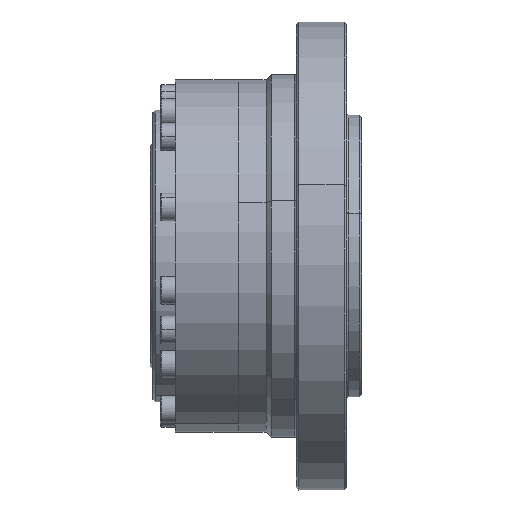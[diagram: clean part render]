
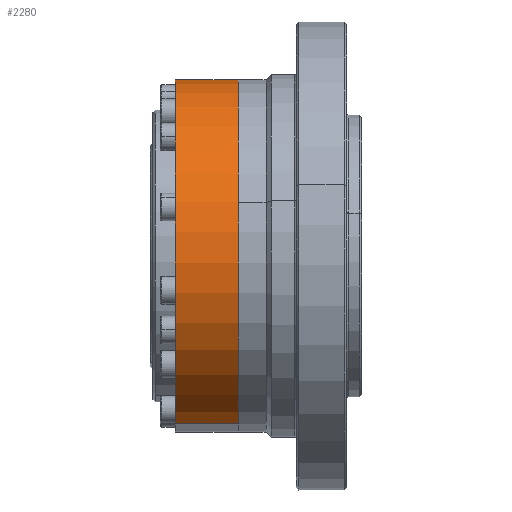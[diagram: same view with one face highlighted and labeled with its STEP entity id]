
A CAD part, top view. The second image highlights one B-rep face of the part: STEP entity #2280.
In plain terms, the highlighted cylindrical face has radius 35 mm (diameter 70 mm), a partial arc.
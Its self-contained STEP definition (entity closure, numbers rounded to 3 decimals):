
#101 = DIRECTION ( 'NONE',  ( -1., 0., 0. ) ) ;
#1258 = CARTESIAN_POINT ( 'NONE',  ( 0., 0., -35. ) ) ;
#1516 = ORIENTED_EDGE ( 'NONE', *, *, #7676, .T. ) ;
#1550 = CARTESIAN_POINT ( 'NONE',  ( 18.662, 0., 35. ) ) ;
#2280 = ADVANCED_FACE ( 'NONE', ( #21359 ), #4188, .T. ) ;
#2922 = LINE ( 'NONE', #6468, #13012 ) ;
#4188 = CYLINDRICAL_SURFACE ( 'NONE', #24295, 35. ) ;
#5209 = EDGE_CURVE ( 'NONE', #18868, #15648, #12135, .T. ) ;
#5695 = DIRECTION ( 'NONE',  ( -1., 0., 0. ) ) ;
#6468 = CARTESIAN_POINT ( 'NONE',  ( 0., 0., 35. ) ) ;
#7063 = DIRECTION ( 'NONE',  ( 0., 0., 1. ) ) ;
#7676 = EDGE_CURVE ( 'NONE', #10439, #19818, #15460, .T. ) ;
#9427 = CARTESIAN_POINT ( 'NONE',  ( 6.162, 0., 0. ) ) ;
#9818 = LINE ( 'NONE', #1258, #26998 ) ;
#10439 = VERTEX_POINT ( 'NONE', #1550 ) ;
#10631 = AXIS2_PLACEMENT_3D ( 'NONE', #9427, #24493, #11568 ) ;
#11544 = EDGE_CURVE ( 'NONE', #10439, #18868, #2922, .T. ) ;
#11568 = DIRECTION ( 'NONE',  ( 0., 0., 1. ) ) ;
#12135 = CIRCLE ( 'NONE', #10631, 35. ) ;
#12476 = CARTESIAN_POINT ( 'NONE',  ( 6.162, 0., 35. ) ) ;
#13012 = VECTOR ( 'NONE', #101, 1000. ) ;
#13469 = DIRECTION ( 'NONE',  ( -1., 0., 0. ) ) ;
#13577 = ORIENTED_EDGE ( 'NONE', *, *, #27197, .T. ) ;
#14126 = DIRECTION ( 'NONE',  ( -1., 0., 0. ) ) ;
#15460 = CIRCLE ( 'NONE', #21183, 35. ) ;
#15636 = CARTESIAN_POINT ( 'NONE',  ( 0., 0., 0. ) ) ;
#15648 = VERTEX_POINT ( 'NONE', #25352 ) ;
#18590 = CARTESIAN_POINT ( 'NONE',  ( 18.662, 0., 0. ) ) ;
#18868 = VERTEX_POINT ( 'NONE', #12476 ) ;
#19818 = VERTEX_POINT ( 'NONE', #24669 ) ;
#20172 = EDGE_LOOP ( 'NONE', ( #1516, #13577, #24577, #22681 ) ) ;
#20775 = DIRECTION ( 'NONE',  ( 0., 0., 1. ) ) ;
#21183 = AXIS2_PLACEMENT_3D ( 'NONE', #18590, #5695, #20775 ) ;
#21359 = FACE_OUTER_BOUND ( 'NONE', #20172, .T. ) ;
#22681 = ORIENTED_EDGE ( 'NONE', *, *, #11544, .F. ) ;
#24295 = AXIS2_PLACEMENT_3D ( 'NONE', #15636, #13469, #7063 ) ;
#24493 = DIRECTION ( 'NONE',  ( -1., 0., 0. ) ) ;
#24577 = ORIENTED_EDGE ( 'NONE', *, *, #5209, .F. ) ;
#24669 = CARTESIAN_POINT ( 'NONE',  ( 18.662, 0., -35. ) ) ;
#25352 = CARTESIAN_POINT ( 'NONE',  ( 6.162, 0., -35. ) ) ;
#26998 = VECTOR ( 'NONE', #14126, 1000. ) ;
#27197 = EDGE_CURVE ( 'NONE', #19818, #15648, #9818, .T. ) ;
